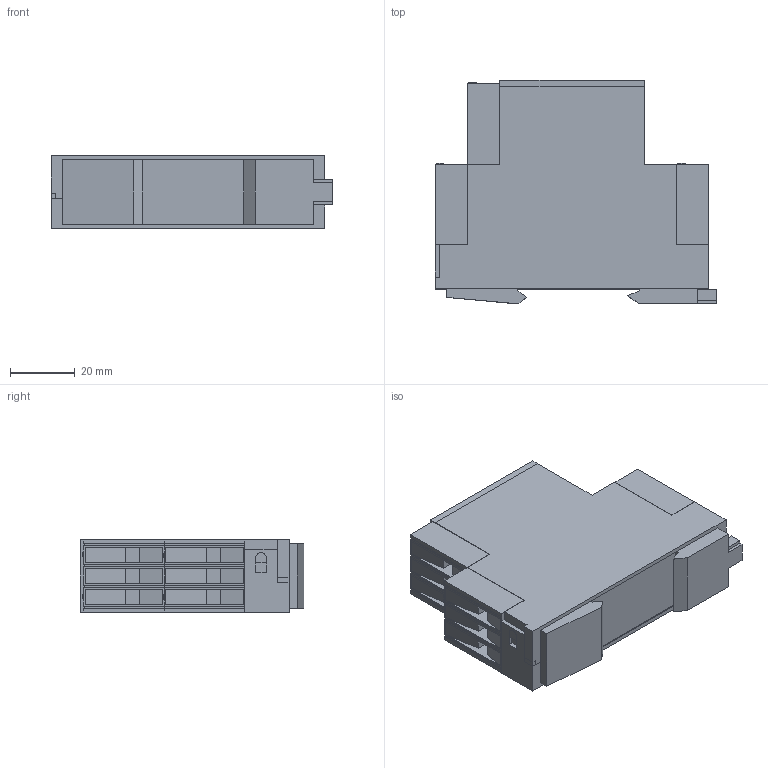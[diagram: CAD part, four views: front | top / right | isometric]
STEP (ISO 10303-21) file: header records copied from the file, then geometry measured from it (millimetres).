
FILE_DESCRIPTION (( 'STEP AP214' ), '1' );
FILE_NAME ('KR_PXN_R.STEP', '2019-05-07T15:45:47', ( '' ), ( '' ), 'SwSTEP 2.0', 'SolidWorks 2013', '' );
FILE_SCHEMA (( 'AUTOMOTIVE_DESIGN' ));
Length unit declared in the file: millimetre
Products named in the file (13): Popis svorky_4_; Nap_pxn_R; Zaslepka; Popis svorky_1_; viko; Svorka_2; Krab_1; Popis svorky_6_; Popis svorky_7_; Popis svorky_3_; klip_din; KR_PXN_R; Popis svorky_5_
Assembly tree (15 placements, depth 2):
  KR_PXN_R
    Krab_1  x2
    viko
    Zaslepka
    klip_din
    Svorka_2  x3
    Popis svorky_1_
    Popis svorky_3_
    Popis svorky_4_
    Popis svorky_5_
    Popis svorky_6_
    Popis svorky_7_
    Nap_pxn_R
Bounding box: 87.2 x 69.35 x 22.6 mm (x, y, z)
Volume: 38348.5 mm3; surface area: 37340.1 mm2
Topology: 24 solids, 24 shells, 677 faces, 1812 edges, 1208 vertices
Faces by surface type: plane 583, bspline 70, cylinder 24
Entity records: 18180 total; most frequent: CARTESIAN_POINT 6528, ORIENTED_EDGE 2244, DIRECTION 1764, EDGE_CURVE 1122, VECTOR 948, LINE 948, VERTEX_POINT 748, EDGE_LOOP 452
